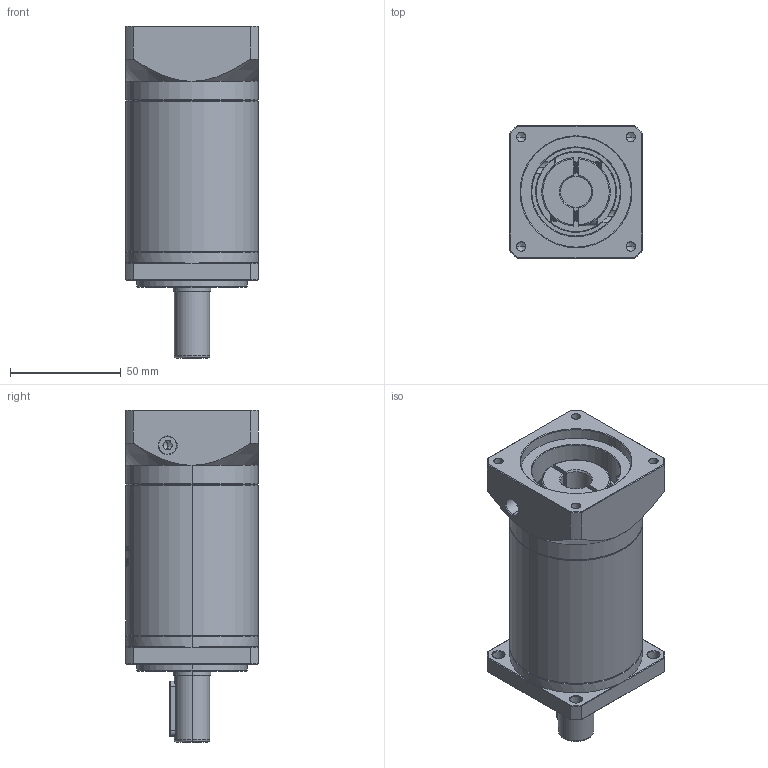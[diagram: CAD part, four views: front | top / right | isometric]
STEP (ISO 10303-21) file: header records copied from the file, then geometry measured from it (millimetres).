
FILE_DESCRIPTION (( 'STEP AP214' ), '1' );
FILE_NAME ('ZF60-D16-L3-14-50-70-M5.STEP', '2022-04-17T11:51:59', ( '' ), ( 'Microsoft' ), 'SwSTEP 2.0', 'SolidWorks 2016', '' );
FILE_SCHEMA (( 'AUTOMOTIVE_DESIGN' ));
Length unit declared in the file: millimetre
Products named in the file (1): ZF60-D16-L3-14-50-70-M5
Bounding box: 60 x 60 x 150 mm (x, y, z)
Volume: 321074 mm3; surface area: 50355.4 mm2
Topology: 6 solids, 6 shells, 1516 faces, 4076 edges, 2636 vertices
Faces by surface type: plane 736, bspline 287, cylinder 239, cone 236, torus 18
Entity records: 79640 total; most frequent: CARTESIAN_POINT 27984, ORIENTED_EDGE 8124, DIRECTION 6138, EDGE_CURVE 4062, VERTEX_POINT 2636, VECTOR 2122, LINE 2122, AXIS2_PLACEMENT_3D 2008
